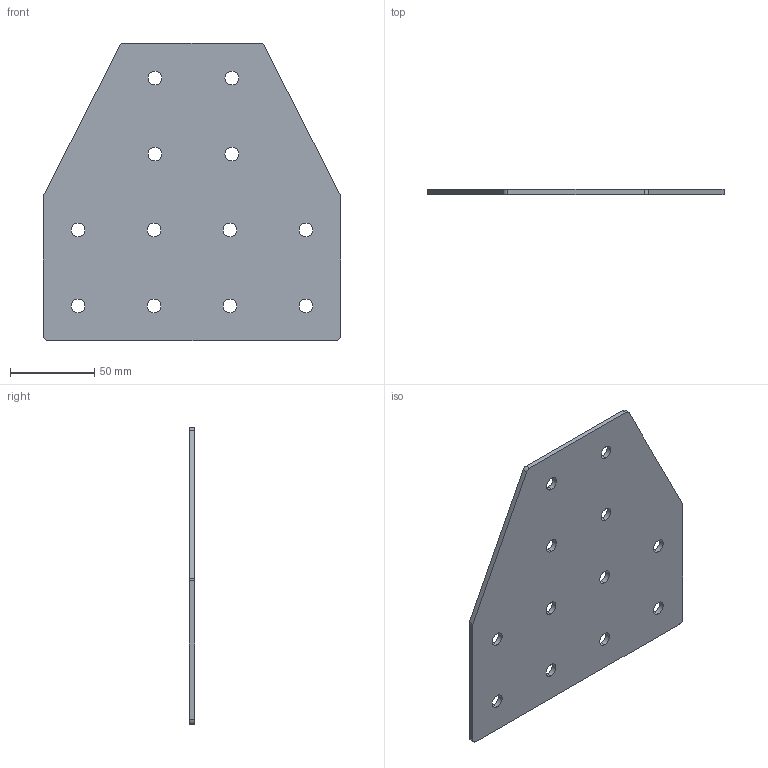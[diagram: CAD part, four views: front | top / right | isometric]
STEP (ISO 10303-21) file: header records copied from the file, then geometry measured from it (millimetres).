
FILE_DESCRIPTION (( 'STEP AP203' ), '1' );
FILE_NAME ('ﾒ-12-ﾓ-45.STEP', '2016-07-22T11:14:15', ( '' ), ( '' ), 'SwSTEP 2.0', 'SolidWorks 2014', '' );
FILE_SCHEMA (( 'CONFIG_CONTROL_DESIGN' ));
Length unit declared in the file: millimetre
Products named in the file (1): ﾒ-12-ﾓ-45
Bounding box: 176 x 3 x 176 mm (x, y, z)
Volume: 78630.1 mm3; surface area: 55240.2 mm2
Topology: 1 solids, 1 shells, 38 faces, 108 edges, 72 vertices
Faces by surface type: cylinder 30, plane 8
Entity records: 1397 total; most frequent: DIRECTION 246, CARTESIAN_POINT 219, ORIENTED_EDGE 216, EDGE_CURVE 108, AXIS2_PLACEMENT_3D 99, VERTEX_POINT 72, EDGE_LOOP 62, CIRCLE 60
